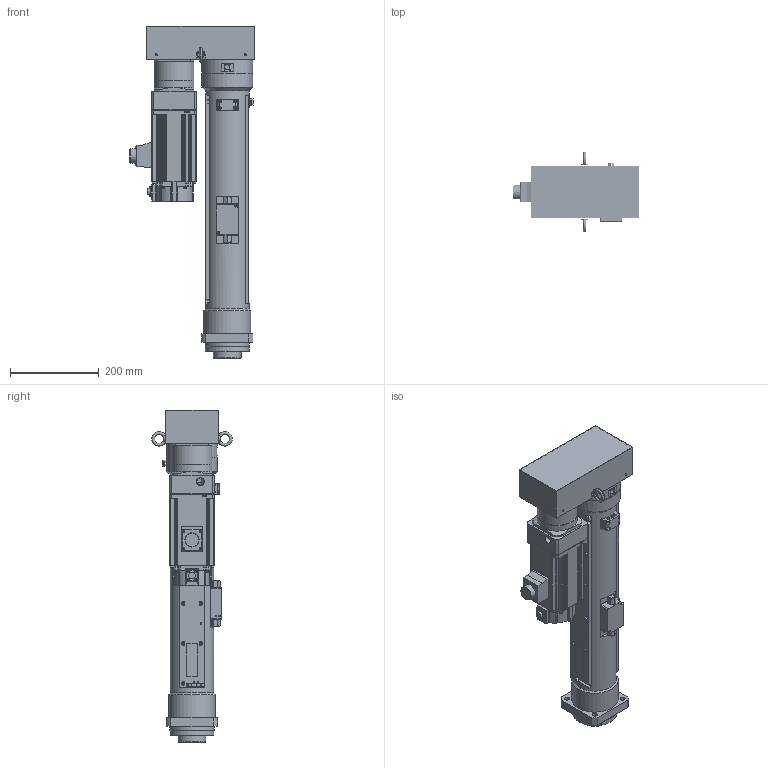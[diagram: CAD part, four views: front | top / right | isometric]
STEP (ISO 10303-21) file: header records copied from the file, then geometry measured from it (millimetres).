
FILE_DESCRIPTION( ('This file contains a STEP AP42 implementation' ,'as created by ZW3D STEP Interface translator.') ,'2;1' );
FILE_NAME( 'P020-400-215-A6V400_ASM_20.51.stp' ,'26 414.1548 2', (''), ('ZWCAD Software Co.'), 'Version 1.0', 'ZW3D to STEP translator', '' );
FILE_SCHEMA(('AUTOMOTIVE_DESIGN { 1 0 10303 214 1 1 1 1 }'));
Length unit declared in the file: millimetre
Products named in the file (1): 0
Bounding box: 283 x 180.9 x 748 mm (x, y, z)
Volume: 7843691.5 mm3; surface area: 1337199 mm2
Topology: 44 solids, 44 shells, 1843 faces, 4733 edges, 3164 vertices
Faces by surface type: plane 760, cylinder 757, cone 228, torus 72, sphere 16, bspline 10
Full cylindrical faces by diameter (mm): 1.6 x8, 2.459 x5, 2.75 x4, 3.2 x5, 3.3 x89, 4.2 x4, 4.3 x32, 4.5 x4, 5 x34, 5.5 x4, 6.5 x8, 6.6 x12, 6.647 x5, 6.8 x36, 7 x12, 8 x43, 8.4 x8, 8.5 x17, 9 x4, 11 x12, 12 x1, 14.8 x1, 15 x8, 15.5 x2, 16.5 x2, 18 x3, 18.917 x2, 19 x2, 20 x5, 22 x1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
Entity records: 62139 total; most frequent: CARTESIAN_POINT 13386, DIRECTION 10293, ORIENTED_EDGE 9250, EDGE_CURVE 4625, AXIS2_PLACEMENT_3D 3983, VERTEX_POINT 3096, EDGE_LOOP 2347, VECTOR 2327
